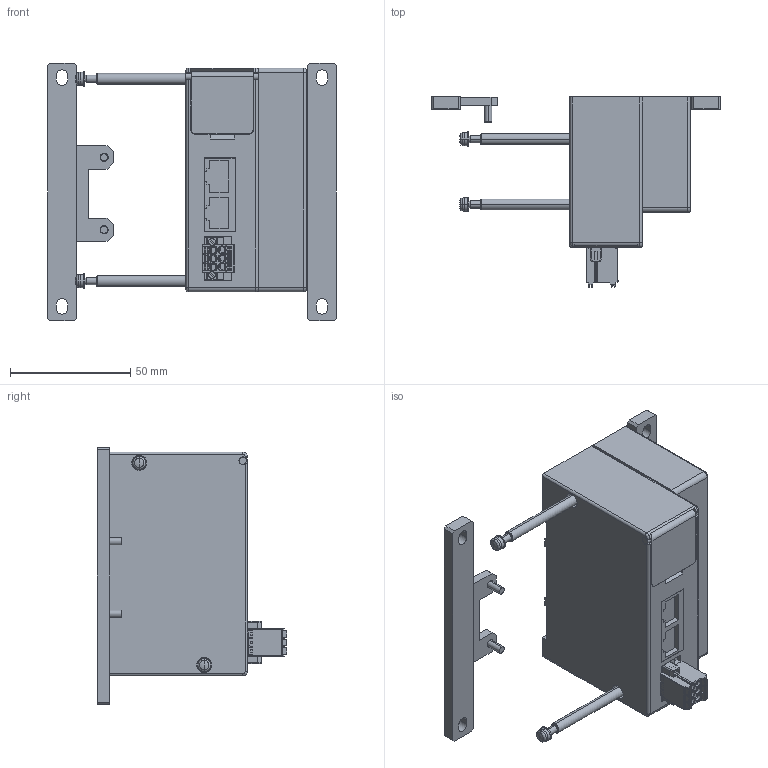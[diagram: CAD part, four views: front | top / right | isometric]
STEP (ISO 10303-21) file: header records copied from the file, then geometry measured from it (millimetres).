
FILE_DESCRIPTION( (''), '2;1');
FILE_NAME ('YS8EM3-2.stp','2022-12-01T14:42:16',(''),(''),'spGate 12.6.6','','');
FILE_SCHEMA (('AUTOMOTIVE_DESIGN'));
Length unit declared in the file: millimetre
Products named in the file (3): Assembly; YS8EM3-2-prt0; YS8EM3-2-prt1
Assembly tree (3 placements, depth 2):
  Assembly
    YS8EM3-2-prt0  x2
    YS8EM3-2-prt1
Bounding box: 120 x 78.8 x 107 mm (x, y, z)
Volume: 269959.9 mm3; surface area: 42462.5 mm2
Topology: 3 solids, 3 shells, 825 faces, 2127 edges, 1359 vertices
Faces by surface type: plane 501, cylinder 242, bspline 70, sphere 12
Entity records: 39929 total; most frequent: CARTESIAN_POINT 5493, ORIENTED_EDGE 3950, DIRECTION 3717, COLOUR_RGB 2744, PRESENTATION_STYLE_ASSIGNMENT 2744, STYLED_ITEM 2744, EDGE_CURVE 1975, DRAUGHTING_PRE_DEFINED_CURVE_FONT 1975
